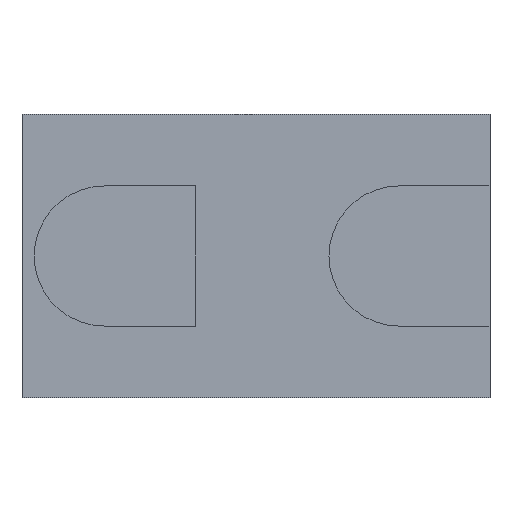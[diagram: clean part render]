
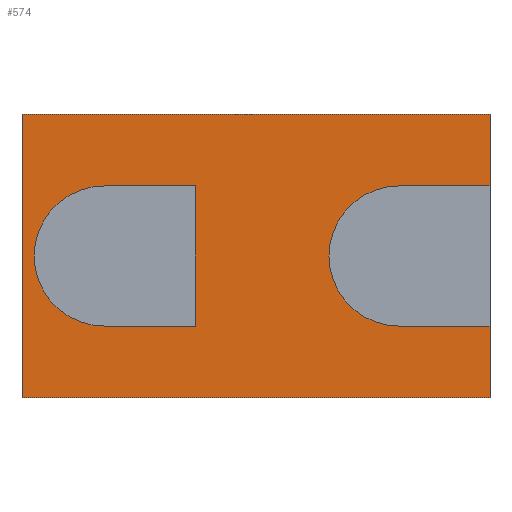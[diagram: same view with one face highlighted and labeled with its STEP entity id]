
A CAD part, front view. The second image highlights one B-rep face of the part: STEP entity #574.
In plain terms, the highlighted planar face has unit normal (0, -1, 0).
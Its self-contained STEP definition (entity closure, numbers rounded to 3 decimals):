
#3 = DIRECTION ( 'NONE',  ( 0., 0., 1. ) ) ;
#17 = CARTESIAN_POINT ( 'NONE',  ( 63., 0., 38.5 ) ) ;
#19 = EDGE_CURVE ( 'NONE', #541, #111, #641, .T. ) ;
#25 = DIRECTION ( 'NONE',  ( 0., 0., -1. ) ) ;
#26 = ORIENTED_EDGE ( 'NONE', *, *, #19, .T. ) ;
#47 = VECTOR ( 'NONE', #608, 1000. ) ;
#51 = DIRECTION ( 'NONE',  ( 0., 0., -1. ) ) ;
#53 = DIRECTION ( 'NONE',  ( 1., 0., 0. ) ) ;
#56 = DIRECTION ( 'NONE',  ( 0., 0., -1. ) ) ;
#57 = CARTESIAN_POINT ( 'NONE',  ( 63., 0., 38.5 ) ) ;
#58 = ORIENTED_EDGE ( 'NONE', *, *, #156, .T. ) ;
#59 = CARTESIAN_POINT ( 'NONE',  ( 38.3, 0., -19. ) ) ;
#61 = VECTOR ( 'NONE', #437, 1000. ) ;
#70 = CARTESIAN_POINT ( 'NONE',  ( 38.3, 0., 19. ) ) ;
#88 = VECTOR ( 'NONE', #53, 1000. ) ;
#91 = ORIENTED_EDGE ( 'NONE', *, *, #381, .T. ) ;
#101 = FACE_OUTER_BOUND ( 'NONE', #245, .T. ) ;
#108 = LINE ( 'NONE', #452, #644 ) ;
#111 = VERTEX_POINT ( 'NONE', #59 ) ;
#116 = AXIS2_PLACEMENT_3D ( 'NONE', #357, #609, #302 ) ;
#123 = EDGE_CURVE ( 'NONE', #237, #460, #108, .T. ) ;
#126 = AXIS2_PLACEMENT_3D ( 'NONE', #447, #495, #51 ) ;
#134 = ORIENTED_EDGE ( 'NONE', *, *, #484, .T. ) ;
#146 = VERTEX_POINT ( 'NONE', #409 ) ;
#156 = EDGE_CURVE ( 'NONE', #643, #146, #413, .T. ) ;
#158 = CARTESIAN_POINT ( 'NONE',  ( -17., 0., -19. ) ) ;
#165 = CARTESIAN_POINT ( 'NONE',  ( -63., 0., 19. ) ) ;
#166 = EDGE_CURVE ( 'NONE', #652, #412, #456, .T. ) ;
#180 = CARTESIAN_POINT ( 'NONE',  ( 63., 0., -38.5 ) ) ;
#181 = EDGE_CURVE ( 'NONE', #264, #237, #356, .T. ) ;
#198 = LINE ( 'NONE', #654, #47 ) ;
#202 = CARTESIAN_POINT ( 'NONE',  ( -17., 0., 19. ) ) ;
#205 = VECTOR ( 'NONE', #250, 1000. ) ;
#218 = LINE ( 'NONE', #17, #562 ) ;
#228 = VECTOR ( 'NONE', #3, 1000. ) ;
#229 = EDGE_CURVE ( 'NONE', #460, #358, #198, .T. ) ;
#237 = VERTEX_POINT ( 'NONE', #202 ) ;
#245 = EDGE_LOOP ( 'NONE', ( #348, #598, #26, #134, #58, #560, #91, #396 ) ) ;
#246 = DIRECTION ( 'NONE',  ( 1., 0., 0. ) ) ;
#250 = DIRECTION ( 'NONE',  ( 1., 0., 0. ) ) ;
#255 = CARTESIAN_POINT ( 'NONE',  ( -41.7, 0., 0. ) ) ;
#261 = ORIENTED_EDGE ( 'NONE', *, *, #229, .T. ) ;
#264 = VERTEX_POINT ( 'NONE', #520 ) ;
#275 = EDGE_CURVE ( 'NONE', #412, #541, #218, .T. ) ;
#297 = CARTESIAN_POINT ( 'NONE',  ( -63., 0., 19. ) ) ;
#302 = DIRECTION ( 'NONE',  ( 0., 0., -1. ) ) ;
#325 = CARTESIAN_POINT ( 'NONE',  ( -63., 0., -19. ) ) ;
#348 = ORIENTED_EDGE ( 'NONE', *, *, #166, .T. ) ;
#356 = LINE ( 'NONE', #165, #457 ) ;
#357 = CARTESIAN_POINT ( 'NONE',  ( -63., 0., -38.5 ) ) ;
#358 = VERTEX_POINT ( 'NONE', #474 ) ;
#374 = DIRECTION ( 'NONE',  ( 0., 0., 1. ) ) ;
#381 = EDGE_CURVE ( 'NONE', #438, #431, #540, .T. ) ;
#388 = EDGE_CURVE ( 'NONE', #431, #652, #639, .T. ) ;
#389 = CARTESIAN_POINT ( 'NONE',  ( -63., 0., 38.5 ) ) ;
#390 = ORIENTED_EDGE ( 'NONE', *, *, #181, .T. ) ;
#396 = ORIENTED_EDGE ( 'NONE', *, *, #388, .T. ) ;
#409 = CARTESIAN_POINT ( 'NONE',  ( 63., 0., 19. ) ) ;
#411 = FACE_BOUND ( 'NONE', #451, .T. ) ;
#412 = VERTEX_POINT ( 'NONE', #180 ) ;
#413 = LINE ( 'NONE', #297, #205 ) ;
#423 = CARTESIAN_POINT ( 'NONE',  ( -64., 0., -38.5 ) ) ;
#428 = CARTESIAN_POINT ( 'NONE',  ( 63., 0., 38.5 ) ) ;
#431 = VERTEX_POINT ( 'NONE', #588 ) ;
#437 = DIRECTION ( 'NONE',  ( -1., 0., 0. ) ) ;
#438 = VERTEX_POINT ( 'NONE', #428 ) ;
#445 = VECTOR ( 'NONE', #25, 1000. ) ;
#447 = CARTESIAN_POINT ( 'NONE',  ( 38.3, 0., 0. ) ) ;
#451 = EDGE_LOOP ( 'NONE', ( #613, #390, #488, #261 ) ) ;
#452 = CARTESIAN_POINT ( 'NONE',  ( -17., 0., -38.5 ) ) ;
#456 = LINE ( 'NONE', #595, #88 ) ;
#457 = VECTOR ( 'NONE', #246, 1000. ) ;
#459 = LINE ( 'NONE', #57, #228 ) ;
#460 = VERTEX_POINT ( 'NONE', #158 ) ;
#466 = EDGE_CURVE ( 'NONE', #358, #264, #471, .T. ) ;
#471 = CIRCLE ( 'NONE', #646, 19. ) ;
#474 = CARTESIAN_POINT ( 'NONE',  ( -41.7, 0., -19. ) ) ;
#484 = EDGE_CURVE ( 'NONE', #111, #643, #592, .T. ) ;
#488 = ORIENTED_EDGE ( 'NONE', *, *, #123, .T. ) ;
#495 = DIRECTION ( 'NONE',  ( 0., 1., 0. ) ) ;
#498 = DIRECTION ( 'NONE',  ( 0., 0., -1. ) ) ;
#505 = PLANE ( 'NONE',  #116 ) ;
#508 = CARTESIAN_POINT ( 'NONE',  ( 63., 0., -19. ) ) ;
#511 = VECTOR ( 'NONE', #591, 1000. ) ;
#520 = CARTESIAN_POINT ( 'NONE',  ( -41.7, 0., 19. ) ) ;
#532 = CARTESIAN_POINT ( 'NONE',  ( -64., 0., -38.5 ) ) ;
#540 = LINE ( 'NONE', #389, #61 ) ;
#541 = VERTEX_POINT ( 'NONE', #508 ) ;
#548 = EDGE_CURVE ( 'NONE', #146, #438, #459, .T. ) ;
#555 = DIRECTION ( 'NONE',  ( 0., 1., 0. ) ) ;
#560 = ORIENTED_EDGE ( 'NONE', *, *, #548, .T. ) ;
#562 = VECTOR ( 'NONE', #374, 1000. ) ;
#574 = ADVANCED_FACE ( 'NONE', ( #101, #411 ), #505, .T. ) ;
#588 = CARTESIAN_POINT ( 'NONE',  ( -64., 0., 38.5 ) ) ;
#591 = DIRECTION ( 'NONE',  ( -1., 0., 0. ) ) ;
#592 = CIRCLE ( 'NONE', #126, 19. ) ;
#595 = CARTESIAN_POINT ( 'NONE',  ( -63., 0., -38.5 ) ) ;
#598 = ORIENTED_EDGE ( 'NONE', *, *, #275, .T. ) ;
#608 = DIRECTION ( 'NONE',  ( -1., 0., 0. ) ) ;
#609 = DIRECTION ( 'NONE',  ( 0., -1., 0. ) ) ;
#613 = ORIENTED_EDGE ( 'NONE', *, *, #466, .T. ) ;
#639 = LINE ( 'NONE', #532, #445 ) ;
#641 = LINE ( 'NONE', #325, #511 ) ;
#643 = VERTEX_POINT ( 'NONE', #70 ) ;
#644 = VECTOR ( 'NONE', #56, 1000. ) ;
#646 = AXIS2_PLACEMENT_3D ( 'NONE', #255, #555, #498 ) ;
#652 = VERTEX_POINT ( 'NONE', #423 ) ;
#654 = CARTESIAN_POINT ( 'NONE',  ( -63., 0., -19. ) ) ;
